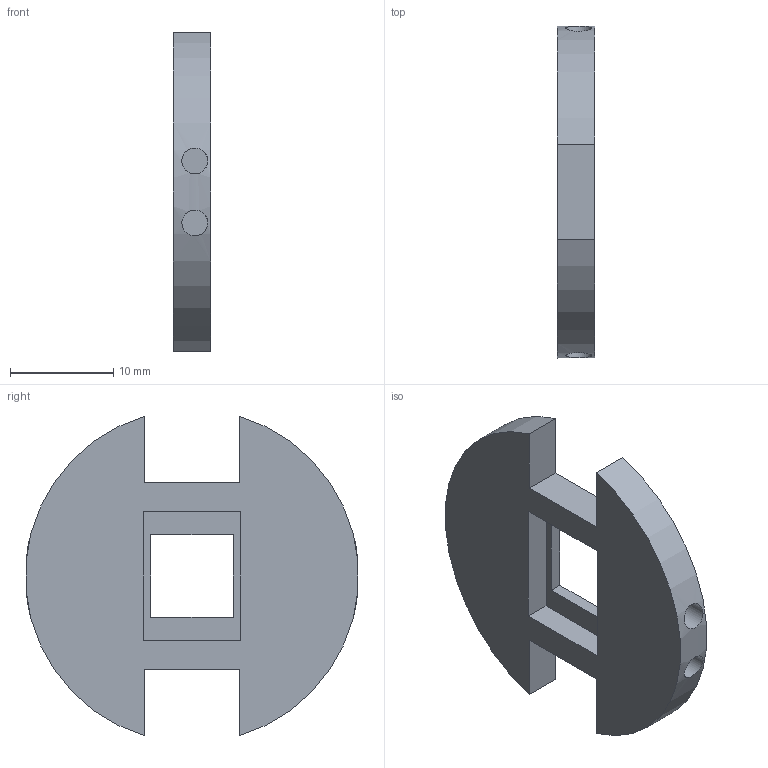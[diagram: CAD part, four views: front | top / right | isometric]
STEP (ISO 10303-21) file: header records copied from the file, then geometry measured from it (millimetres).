
FILE_DESCRIPTION(('Open CASCADE Model'),'2;1');
FILE_NAME('Open CASCADE Shape Model','2026-11-07T08:48:27',('Author'),( 'Open CASCADE'),'Open CASCADE STEP processor 8.0','build123d', 'Unknown');
FILE_SCHEMA(('AUTOMOTIVE_DESIGN { 1 0 10303 214 1 1 1 1 }'));
Length unit declared in the file: millimetre
Products named in the file (1): COMPOUND
Bounding box: 3.6 x 32.08 x 30.86 mm (x, y, z)
Volume: 2034.9 mm3; surface area: 1980.9 mm2
Topology: 1 solids, 1 shells, 27 faces, 60 edges, 40 vertices
Faces by surface type: plane 21, cylinder 6
Full cylindrical faces by diameter (mm): 2.5 x4
Entity records: 2098 total; most frequent: CARTESIAN_POINT 952, DIRECTION 174, ORIENTED_EDGE 120, PCURVE 120, DEFINITIONAL_REPRESENTATION 120, LINE 96, VECTOR 96, B_SPLINE_CURVE_WITH_KNOTS 68
